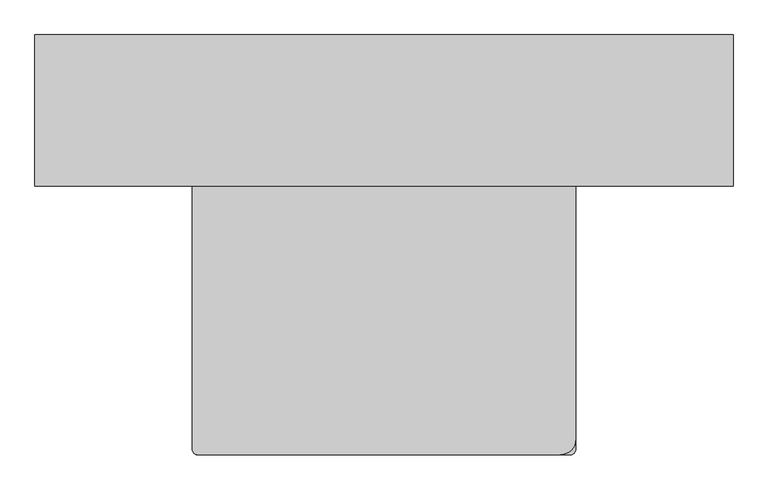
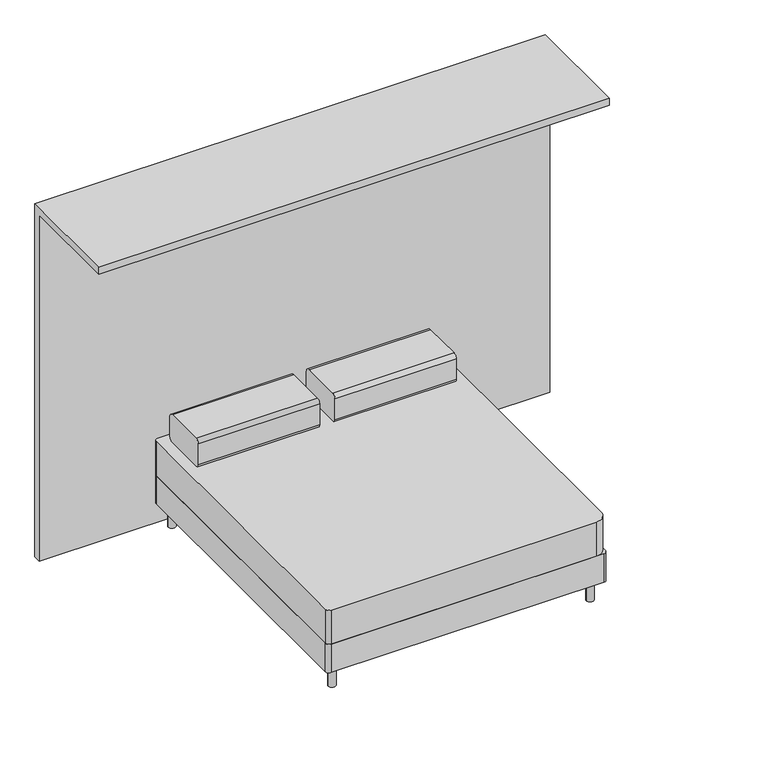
"""IFC4 building model written with IfcOpenShell, lengths in millimetres: furniture geometry, CAMA HABITACIONES : 180cmx200cmx60cm (dos camas)."""

import ifcopenshell
import ifcopenshell.guid

model = None  # the IFC model being written
_history = None  # IfcOwnerHistory: only IFC2X3 demands one
_inside = {}  # id of a spatial element -> (the spatial element, [elements in it])
_under = {}  # id of a project, library or spatial element -> (it, [spatial elements below it])
_declared = {}  # id of a project -> (the project, [libraries it declares])
_typed = {}  # id of a type object -> (the type object, [elements of that type])
_made_of = {}  # id of a material, layer set ... -> (it, [elements and type objects made of it])


def new_model(schema):
    """Start an empty IFC model of exactly this schema.

    Asked for "IFC4X3", IfcOpenShell would pick the latest addendum, in which some entities
    have other attributes; the version numbers below select the first issue.
    IFC2X3 requires an IfcOwnerHistory on every rooted entity: one is made here for all.
    """
    global model, _history
    if schema == "IFC4X3":
        model = ifcopenshell.file(schema_version=(4, 3, 0, 0))
    else:
        model = ifcopenshell.file(schema=schema)
    _inside.clear()
    _under.clear()
    _declared.clear()
    _typed.clear()
    _made_of.clear()
    _history = None
    if model.schema == "IFC2X3":
        org = make("IfcOrganization", Name="unknown")
        user = make(
            "IfcPersonAndOrganization",
            ThePerson=make("IfcPerson", FamilyName="unknown"),
            TheOrganization=org,
        )
        app = make(
            "IfcApplication",
            ApplicationDeveloper=org,
            Version="unknown",
            ApplicationFullName="unknown",
            ApplicationIdentifier="unknown",
        )
        _history = make(
            "IfcOwnerHistory",
            OwningUser=user,
            OwningApplication=app,
            ChangeAction="ADDED",
            CreationDate=0,
        )
    return model


def make(cls, **values):
    """One entity of the class cls with the attributes given. An attribute that is None is left unset."""
    return model.create_entity(
        cls, **{name: value for name, value in values.items() if value is not None}
    )


def rooted(cls, **values):
    """An entity with a GlobalId (a new one), such as an element, a storey or a relation."""
    return make(cls, GlobalId=ifcopenshell.guid.new(), OwnerHistory=_history, **values)


def si_unit(unit_type, name, prefix=None):
    """IfcSIUnit, for example si_unit("LENGTHUNIT", "METRE", prefix="MILLI")."""
    return make("IfcSIUnit", UnitType=unit_type, Prefix=prefix, Name=name)


def assignment(units):
    """IfcUnitAssignment: the units of a project."""
    return None if units is None else make("IfcUnitAssignment", Units=units)


def point(xyz):
    """IfcCartesianPoint."""
    return None if xyz is None else make("IfcCartesianPoint", Coordinates=xyz)


def direction(xyz):
    """IfcDirection."""
    return None if xyz is None else make("IfcDirection", DirectionRatios=xyz)


def frame(location, z_axis=None, x_axis=None):
    """IfcAxis2Placement3D, a coordinate frame: its origin and axes. An axis left out is left unset."""
    return make(
        "IfcAxis2Placement3D",
        Location=point(location),
        Axis=direction(z_axis),
        RefDirection=direction(x_axis),
    )


def frame_2d(location, x_axis=None):
    """IfcAxis2Placement2D, a coordinate frame in the plane: its origin and x axis."""
    return make(
        "IfcAxis2Placement2D", Location=point(location), RefDirection=direction(x_axis)
    )


def origin():
    """The frame at (0, 0, 0) with its axes left unset."""
    return frame((0.0, 0.0, 0.0))


def origin_with_axes():
    """The frame at (0, 0, 0) with the z axis (0, 0, 1) and the x axis (1, 0, 0) written out."""
    return frame((0.0, 0.0, 0.0), z_axis=(0.0, 0.0, 1.0), x_axis=(1.0, 0.0, 0.0))


def place(relative_to, where):
    """IfcLocalPlacement: puts the frame where relative to a parent placement (None: the world)."""
    return make(
        "IfcLocalPlacement", PlacementRelTo=relative_to, RelativePlacement=where
    )


def context(
    kind, dimensions, precision=None, world=None, true_north=None, identifier=None
):
    """IfcGeometricRepresentationContext, for example the 3D "Model" context."""
    return make(
        "IfcGeometricRepresentationContext",
        ContextIdentifier=identifier,
        ContextType=kind,
        CoordinateSpaceDimension=dimensions,
        Precision=precision,
        WorldCoordinateSystem=world,
        TrueNorth=true_north,
    )


def project(units=None, contexts=None):
    """IfcProject with its units and contexts."""
    return rooted(
        "IfcProject",
        Name="project",
        RepresentationContexts=contexts,
        UnitsInContext=assignment(units),
    )


def spatial(cls, under=None, at=None, **own):
    """A site, building, storey or space (cls), placed at a placement, below another one or the project."""
    s = rooted(cls, ObjectPlacement=at, **own)
    if under is not None:
        _under.setdefault(under.id(), (under, []))[1].append(s)
    return s


def polyline(points):
    """IfcPolyline through the points."""
    return make("IfcPolyline", Points=[point(p) for p in points])


def circle_curve(where, radius):
    """IfcCircle in the frame where."""
    return make("IfcCircle", Position=where, Radius=radius)


def trimmed(basis, trim1, trim2, sense, master):
    """IfcTrimmedCurve: the piece of a basis curve between two trims."""
    return make(
        "IfcTrimmedCurve",
        BasisCurve=basis,
        Trim1=trim1,
        Trim2=trim2,
        SenseAgreement=sense,
        MasterRepresentation=master,
    )


def segment(curve, same_sense, transition):
    """IfcCompositeCurveSegment."""
    return make(
        "IfcCompositeCurveSegment",
        Transition=transition,
        SameSense=same_sense,
        ParentCurve=curve,
    )


def composite_curve(segments, self_intersect=None):
    """IfcCompositeCurve: segments joined end to end."""
    return make("IfcCompositeCurve", Segments=segments, SelfIntersect=self_intersect)


def outline(outer, holes=None, kind="AREA"):
    """IfcArbitraryClosedProfileDef: a profile drawn as a closed curve; with holes, ...WithVoids."""
    if holes is None:
        return make("IfcArbitraryClosedProfileDef", ProfileType=kind, OuterCurve=outer)
    return make(
        "IfcArbitraryProfileDefWithVoids",
        ProfileType=kind,
        OuterCurve=outer,
        InnerCurves=holes,
    )


def extrude(swept, where, along, depth):
    """IfcExtrudedAreaSolid: the profile swept, set in the frame where, extruded along a direction by depth."""
    return make(
        "IfcExtrudedAreaSolid",
        SweptArea=swept,
        Position=where,
        ExtrudedDirection=direction(along),
        Depth=depth,
    )


def shape(context_of_items, identifier, shape_type, items):
    """IfcShapeRepresentation: the items that make up one representation, for example the "Body"."""
    return make(
        "IfcShapeRepresentation",
        ContextOfItems=context_of_items,
        RepresentationIdentifier=identifier,
        RepresentationType=shape_type,
        Items=items,
    )


def source(mapping_origin, context_of_items, identifier, shape_type, items):
    """IfcRepresentationMap: a shape defined once, which mapped items show again and again."""
    return make(
        "IfcRepresentationMap",
        MappingOrigin=mapping_origin,
        MappedRepresentation=shape(context_of_items, identifier, shape_type, items),
    )


def transform(
    local_origin,
    x_axis=None,
    y_axis=None,
    z_axis=None,
    scale=None,
    scale2=None,
    scale3=None,
    uniform=True,
):
    """IfcCartesianTransformationOperator3D, or its non-uniform kind. x_axis, y_axis, z_axis: its Axis1, 2, 3."""
    if uniform:
        return make(
            "IfcCartesianTransformationOperator3D",
            Axis1=direction(x_axis),
            Axis2=direction(y_axis),
            LocalOrigin=point(local_origin),
            Scale=scale,
            Axis3=direction(z_axis),
        )
    return make(
        "IfcCartesianTransformationOperator3DnonUniform",
        Axis1=direction(x_axis),
        Axis2=direction(y_axis),
        LocalOrigin=point(local_origin),
        Scale=scale,
        Axis3=direction(z_axis),
        Scale2=scale2,
        Scale3=scale3,
    )


def mapped(mapping_source, mapping_target):
    """IfcMappedItem: shows the shape of a source again, moved by a transform."""
    return make(
        "IfcMappedItem", MappingSource=mapping_source, MappingTarget=mapping_target
    )


def made_of(thing, what):
    """Note that an element or type object is made of a material, layer set ...; save() writes the relation."""
    if what is not None:
        _made_of.setdefault(what.id(), (what, []))[1].append(thing)
    return thing


def element(
    cls,
    number,
    at=None,
    inside=None,
    cuts=None,
    type_object=None,
    material=None,
    context=None,
    identifier="Body",
    shape_type=None,
    held_by="IfcProductDefinitionShape",
    body=None,
    shapes=None,
    **own,
):
    """One element of the class cls, such as IfcWall. Its Tag is "e" and its number.

    at: its placement. inside: the storey or other place that contains it. cuts: it is an
    opening in that element (IfcRelVoidsElement). A single representation is given by context,
    identifier, shape_type and body (its items); several are given by shapes. held_by: the class
    of the entity that holds the representations. save() writes the other relations.
    """
    e = rooted(cls, Tag="e%d" % number, ObjectPlacement=at, **own)
    if body is not None:
        shapes = [shape(context, identifier, shape_type, body)]
    if shapes is not None:
        e.Representation = make(held_by, Representations=shapes)
    if inside is not None:
        _inside.setdefault(inside.id(), (inside, []))[1].append(e)
    if cuts is not None:
        rooted(
            "IfcRelVoidsElement", RelatingBuildingElement=cuts, RelatedOpeningElement=e
        )
    if type_object is not None:
        _typed.setdefault(type_object.id(), (type_object, []))[1].append(e)
    return made_of(e, material)


def aggregate(whole, parts):
    """IfcRelAggregates: a whole, such as a stair, and the parts it consists of."""
    return rooted("IfcRelAggregates", RelatingObject=whole, RelatedObjects=parts)


def save(model, path):
    """Write the relations noted so far, then the file.

    IfcRelAggregates (storeys below a building ...), IfcRelContainedInSpatialStructure (elements
    in a storey), IfcRelDefinesByType, IfcRelAssociatesMaterial and IfcRelDeclares: one each for
    every whole, place, type object, material and project.
    """
    for whole, parts in _under.values():
        aggregate(whole, parts)
    for where, things in _inside.values():
        rooted(
            "IfcRelContainedInSpatialStructure",
            RelatedElements=things,
            RelatingStructure=where,
        )
    for kind, things in _typed.values():
        rooted("IfcRelDefinesByType", RelatedObjects=things, RelatingType=kind)
    for what, things in _made_of.values():
        rooted("IfcRelAssociatesMaterial", RelatedObjects=things, RelatingMaterial=what)
    for by, libraries in _declared.values():
        rooted("IfcRelDeclares", RelatingContext=by, RelatedDefinitions=libraries)
    model.write(path)


def furniture_922720f4(model_context):
    return source(origin(), model_context, "Body", "SweptSolid", [
        extrude(outline(composite_curve([segment(polyline([(609.2577707, 800.0), (885.4853679, 800.0)]), True, "CONTINUOUS"), segment(trimmed(circle_curve(frame_2d((885.4853679, 767.4275972)), 32.5724028), [point((885.4853679, 800.0))], [point((918.0577707, 767.4275972))], False, "CARTESIAN"), True, "CONTINUOUS"), segment(polyline([(918.0577707, 767.4275972), (918.0577707, 628.7237964)]), True, "CONTINUOUS"), segment(trimmed(circle_curve(frame_2d((889.3339743, 628.7237964)), 28.7237964), [point((918.0577707, 628.7237964))], [point((889.3339743, 600.0))], False, "CARTESIAN"), True, "CONTINUOUS"), segment(polyline([(889.3339743, 600.0), (609.2577707, 600.0)]), True, "CONTINUOUS"), segment(trimmed(circle_curve(frame_2d((609.2577707, 625.4)), 25.4), [point((609.2577707, 600.0))], [point((583.8577707, 625.4))], False, "CARTESIAN"), True, "CONTINUOUS"), segment(polyline([(583.8577707, 625.4), (583.8577707, 774.6)]), True, "CONTINUOUS"), segment(trimmed(circle_curve(frame_2d((609.2577707, 774.6)), 25.4), [point((583.8577707, 774.6))], [point((609.2577707, 800.0))], False, "CARTESIAN"), True, "CONTINUOUS")], self_intersect=False)), frame((323.2558032, 0.0, 0.0), z_axis=(1.0, 0.0, 0.0), x_axis=(0.0, 1.0, 0.0)), (0.0, 0.0, 1.0), 822.0327213),
        extrude(outline(composite_curve([segment(polyline([(-678.5114754, -1036.195082), (-678.5114754, 945.004918)]), True, "CONTINUOUS"), segment(trimmed(circle_curve(frame_2d((-653.1114754, 945.004918)), 25.4), [point((-678.5114754, 945.004918))], [point((-653.1114754, 970.404918))], False, "CARTESIAN"), True, "CONTINUOUS"), segment(polyline([(-653.1114754, 970.404918), (1196.0885246, 970.404918)]), True, "CONTINUOUS"), segment(trimmed(circle_curve(frame_2d((1196.0885246, 945.004918)), 25.4), [point((1196.0885246, 970.404918))], [point((1221.4885246, 945.004918))], False, "CARTESIAN"), True, "CONTINUOUS"), segment(polyline([(1221.4885246, 945.004918), (1221.4885246, -1036.195082)]), True, "CONTINUOUS"), segment(trimmed(circle_curve(frame_2d((1196.0885246, -1036.195082)), 25.4), [point((1221.4885246, -1036.195082))], [point((1196.0885246, -1061.595082))], False, "CARTESIAN"), True, "CONTINUOUS"), segment(polyline([(1196.0885246, -1061.595082), (-653.1114754, -1061.595082)]), True, "CONTINUOUS"), segment(trimmed(circle_curve(frame_2d((-653.1114754, -1036.195082)), 25.4), [point((-653.1114754, -1061.595082))], [point((-678.5114754, -1036.195082))], False, "CARTESIAN"), True, "CONTINUOUS")], self_intersect=False)), frame((0.0, 0.0, 152.4), z_axis=(0.0, 0.0, 1.0), x_axis=(1.0, 0.0, 0.0)), (0.0, 0.0, 1.0), 203.2),
        extrude(outline(composite_curve([segment(trimmed(circle_curve(frame_2d((609.2577707, 774.6)), 25.4), [point((583.8577707, 774.6))], [point((609.2577707, 800.0))], False, "CARTESIAN"), True, "CONTINUOUS"), segment(polyline([(609.2577707, 800.0), (885.4853679, 800.0)]), True, "CONTINUOUS"), segment(trimmed(circle_curve(frame_2d((885.4853679, 767.4275972)), 32.5724028), [point((885.4853679, 800.0))], [point((918.0577707, 767.4275972))], False, "CARTESIAN"), True, "CONTINUOUS"), segment(polyline([(918.0577707, 767.4275972), (918.0577707, 628.7237964)]), True, "CONTINUOUS"), segment(trimmed(circle_curve(frame_2d((889.3339743, 628.7237964)), 28.7237964), [point((918.0577707, 628.7237964))], [point((889.3339743, 600.0))], False, "CARTESIAN"), True, "CONTINUOUS"), segment(polyline([(889.3339743, 600.0), (609.2577707, 600.0)]), True, "CONTINUOUS"), segment(trimmed(circle_curve(frame_2d((609.2577707, 625.4)), 25.4), [point((609.2577707, 600.0))], [point((583.8577707, 625.4))], False, "CARTESIAN"), True, "CONTINUOUS"), segment(polyline([(583.8577707, 625.4), (583.8577707, 774.6)]), True, "CONTINUOUS")], self_intersect=False)), frame((-602.3114754, 0.0, 0.0), z_axis=(1.0, 0.0, 0.0), x_axis=(0.0, 1.0, 0.0)), (0.0, 0.0, 1.0), 822.0327213),
        extrude(outline(composite_curve([segment(trimmed(circle_curve(frame_2d((-602.3114754, 894.204918)), 25.4), [point((-627.7114754, 894.204918))], [point((-576.9114754, 894.204918))], False, "CARTESIAN"), True, "CONTINUOUS"), segment(trimmed(circle_curve(frame_2d((-602.3114754, 894.204918)), 25.4), [point((-576.9114754, 894.204918))], [point((-627.7114754, 894.204918))], False, "CARTESIAN"), True, "CONTINUOUS")], self_intersect=False)), origin_with_axes(), (0.0, 0.0, 1.0), 152.4),
        extrude(outline(composite_curve([segment(trimmed(circle_curve(frame_2d((1145.2885246, 894.204918)), 25.4), [point((1119.8885246, 894.204918))], [point((1170.6885246, 894.204918))], False, "CARTESIAN"), True, "CONTINUOUS"), segment(trimmed(circle_curve(frame_2d((1145.2885246, 894.204918)), 25.4), [point((1170.6885246, 894.204918))], [point((1119.8885246, 894.204918))], False, "CARTESIAN"), True, "CONTINUOUS")], self_intersect=False)), origin_with_axes(), (0.0, 0.0, 1.0), 152.4),
        extrude(outline(composite_curve([segment(trimmed(circle_curve(frame_2d((1145.2885246, -985.395082)), 25.4), [point((1119.8885246, -985.395082))], [point((1170.6885246, -985.395082))], False, "CARTESIAN"), True, "CONTINUOUS"), segment(trimmed(circle_curve(frame_2d((1145.2885246, -985.395082)), 25.4), [point((1170.6885246, -985.395082))], [point((1119.8885246, -985.395082))], False, "CARTESIAN"), True, "CONTINUOUS")], self_intersect=False)), origin_with_axes(), (0.0, 0.0, 1.0), 152.4),
        extrude(outline(composite_curve([segment(trimmed(circle_curve(frame_2d((-602.3114754, -985.395082)), 25.4), [point((-627.7114754, -985.395082))], [point((-576.9114754, -985.395082))], False, "CARTESIAN"), True, "CONTINUOUS"), segment(trimmed(circle_curve(frame_2d((-602.3114754, -985.395082)), 25.4), [point((-576.9114754, -985.395082))], [point((-627.7114754, -985.395082))], False, "CARTESIAN"), True, "CONTINUOUS")], self_intersect=False)), origin_with_axes(), (0.0, 0.0, 1.0), 152.4),
        extrude(outline(composite_curve([segment(polyline([(-653.1114754, 970.404918), (1155.5885246, 970.404918)]), True, "CONTINUOUS"), segment(trimmed(circle_curve(frame_2d((1155.5885246, 904.504918)), 65.9), [point((1155.5885246, 970.404918))], [point((1221.4885246, 904.504918))], False, "CARTESIAN"), True, "CONTINUOUS"), segment(polyline([(1221.4885246, 904.504918), (1221.4885246, -986.195082)]), True, "CONTINUOUS"), segment(trimmed(circle_curve(frame_2d((1146.0885246, -986.195082)), 75.4), [point((1221.4885246, -986.195082))], [point((1146.0885246, -1061.595082))], False, "CARTESIAN"), True, "CONTINUOUS"), segment(polyline([(1146.0885246, -1061.595082), (-653.1114754, -1061.595082)]), True, "CONTINUOUS"), segment(trimmed(circle_curve(frame_2d((-653.1114754, -1036.195082)), 25.4), [point((-653.1114754, -1061.595082))], [point((-678.5114754, -1036.195082))], False, "CARTESIAN"), True, "CONTINUOUS"), segment(polyline([(-678.5114754, -1036.195082), (-678.5114754, 945.004918)]), True, "CONTINUOUS"), segment(trimmed(circle_curve(frame_2d((-653.1114754, 945.004918)), 25.4), [point((-678.5114754, 945.004918))], [point((-653.1114754, 970.404918))], False, "CARTESIAN"), True, "CONTINUOUS")], self_intersect=False)), frame((0.0, 0.0, 355.6), z_axis=(0.0, 0.0, 1.0), x_axis=(1.0, 0.0, 0.0)), (0.0, 0.0, 1.0), 244.4),
        extrude(outline(polyline([(1020.404918, 0.0), (970.404918, 0.0), (970.404918, 2480.0799139), (270.404918, 2480.0799139), (270.404918, 2530.0799139), (1020.404918, 2530.0799139), (1020.404918, 0.0)])), frame((-1458.5114754, 0.0, 0.0), z_axis=(1.0, 0.0, 0.0), x_axis=(0.0, 1.0, 0.0)), (0.0, 0.0, 1.0), 3460.0),
    ])


if __name__ == "__main__":
    model = new_model("IFC4")
    model_context = context("Model", 3, world=origin())
    ifc_project = project(units=[si_unit("LENGTHUNIT", "METRE", prefix="MILLI")], contexts=[model_context])
    site = spatial("IfcSite", under=ifc_project)
    building = spatial("IfcBuilding", under=site)
    placement = place(None, origin())
    furniture_shape = furniture_922720f4(model_context)
    element("IfcFurniture", 1, ObjectType="CAMA HABITACIONES : 180cmx200cmx60cm (dos camas)", at=placement, inside=building, context=model_context, shape_type="MappedRepresentation", body=[
        mapped(furniture_shape, transform((0.0, 0.0, 0.0), x_axis=(1.0, 0.0, 0.0), y_axis=(0.0, 1.0, 0.0), z_axis=(0.0, 0.0, 1.0))),
    ])
    save(model, "model.ifc")
